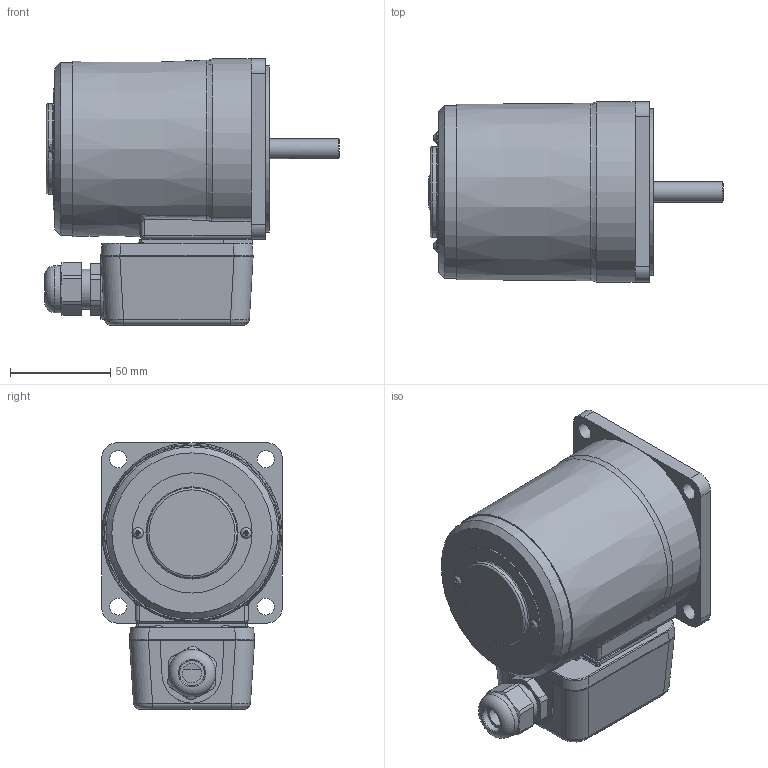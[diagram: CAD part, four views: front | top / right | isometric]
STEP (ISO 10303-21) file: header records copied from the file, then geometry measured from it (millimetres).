
FILE_DESCRIPTION(/* description */ (''),/* implementation_level */ '2;1');
FILE_NAME(/* name */ 'E:\도면작업\2016\0704) 미주향 SG 도면\3D MOTOR\TERMINAL BOX TYPE\REVERSIBLE TERMINAL BOX\SG9R40K_-T.stp',/* time_stamp */ '2017-01-24T11:29:17+09:00',/* author */ ('jy-jung'),/* organization */ (''),/* preprocessor_version */ 'ST-DEVELOPER v15.6',/* originating_system */ 'Autodesk Inventor 2015',/* authorisation */ '');
FILE_SCHEMA (('AUTOMOTIVE_DESIGN { 1 0 10303 214 3 1 1 }'));
Length unit declared in the file: millimetre
Products named in the file (1): 부품1
Bounding box: 147 x 90 x 133 mm (x, y, z)
Volume: 855399.6 mm3; surface area: 75251.3 mm2
Topology: 1 solids, 12 shells, 426 faces, 1057 edges, 674 vertices
Faces by surface type: plane 228, cylinder 115, bspline 52, torus 26, cone 5
Full cylindrical faces by diameter (mm): 2.55 x2, 3 x2, 3.5 x2, 5.6 x6, 6.3 x4, 8.5 x4, 10 x1, 12.5 x1, 15 x1, 20 x2, 21 x1, 23.6 x1, 40 x1, 43 x1, 45 x1, 60 x1, 83 x1, 86 x1
Entity records: 14513 total; most frequent: CARTESIAN_POINT 4555, ORIENTED_EDGE 1958, DIRECTION 1865, EDGE_CURVE 979, AXIS2_PLACEMENT_3D 669, VERTEX_POINT 658, LINE 527, VECTOR 527
